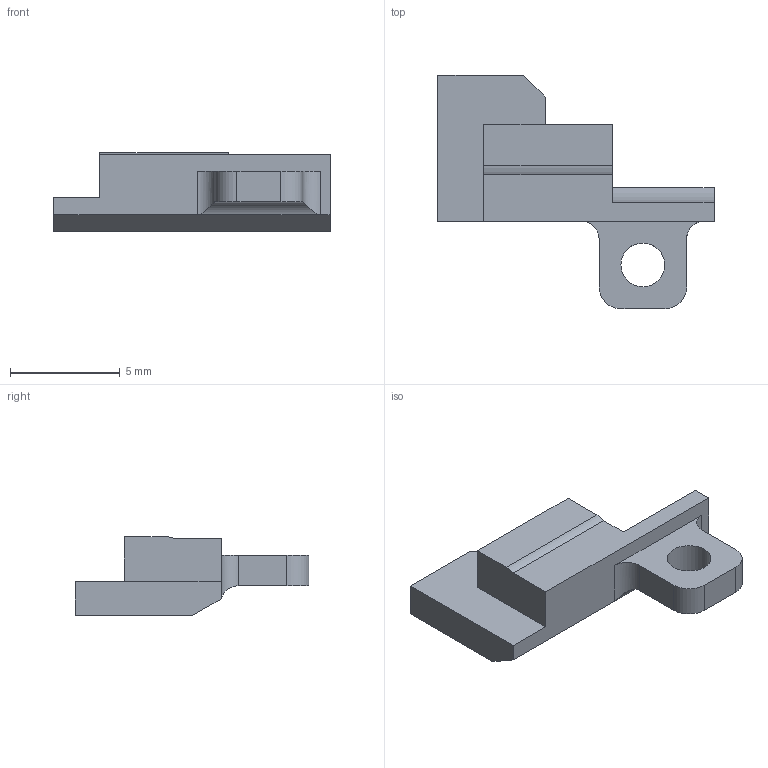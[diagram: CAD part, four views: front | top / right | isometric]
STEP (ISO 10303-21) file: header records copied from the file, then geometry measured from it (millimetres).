
FILE_DESCRIPTION(('STEP AP203'), '1');
FILE_NAME('upper', '2026-02-07T11:32:04', ('user'), (''), 'C3D Converter', 'C3D Toolkit', '');
FILE_SCHEMA(('CONFIG_CONTROL_DESIGN'));
Length unit declared in the file: millimetre
Bounding box: 12.6 x 10.66 x 3.6 mm (x, y, z)
Volume: 148.3 mm3; surface area: 253.9 mm2
Topology: 1 solids, 1 shells, 36 faces, 97 edges, 63 vertices
Faces by surface type: plane 23, cylinder 13
Full cylindrical faces by diameter (mm): 2 x1
Entity records: 1284 total; most frequent: CARTESIAN_POINT 335, ORIENTED_EDGE 192, DIRECTION 183, EDGE_CURVE 96, LINE 73, VECTOR 73, VERTEX_POINT 63, AXIS2_PLACEMENT_3D 55
